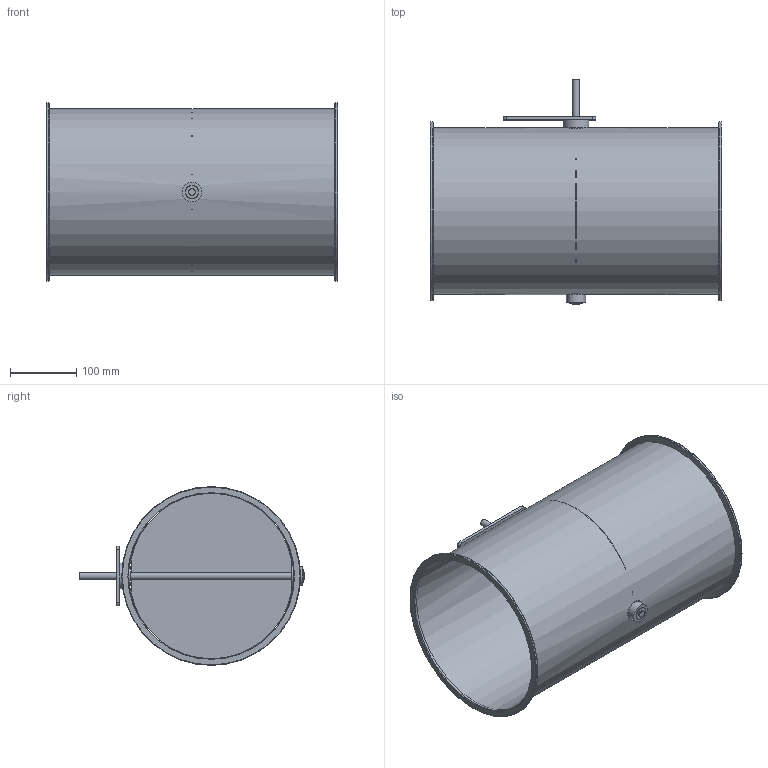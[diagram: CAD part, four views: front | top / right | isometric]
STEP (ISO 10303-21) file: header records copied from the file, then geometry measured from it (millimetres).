
FILE_DESCRIPTION(/* description */ (''),/* implementation_level */ '2;1');
FILE_NAME(/* name */ 'EA103-80B__250_L440_Belimo_Typ_NM.stp',/* time_stamp */ '2017-12-06T14:52:16+01:00',/* author */ (''),/* organization */ (''),/* preprocessor_version */ 'ST-DEVELOPER v11',/* originating_system */ 'SIEMENS UGS NX 6.0',/* authorisation */ '');
FILE_SCHEMA (('CONFIG_CONTROL_DESIGN'));
Length unit declared in the file: millimetre
Products named in the file (1): gars18E2j29h
Bounding box: 440 x 340 x 270 mm (x, y, z)
Volume: 508393.4 mm3; surface area: 869010.1 mm2
Topology: 8 solids, 8 shells, 60 faces, 126 edges, 84 vertices
Faces by surface type: cylinder 28, plane 24, torus 6, cone 2
Full cylindrical faces by diameter (mm): 4.1 x4, 10 x3, 19 x3, 19.85 x2, 20 x2, 29 x1, 30 x2, 39 x1, 250 x1, 251.6 x1, 270 x2
Entity records: 1568 total; most frequent: CARTESIAN_POINT 289, DIRECTION 262, ORIENTED_EDGE 172, AXIS2_PLACEMENT_3D 119, EDGE_LOOP 116, FACE_BOUND 102, EDGE_CURVE 86, VERTEX_POINT 74
